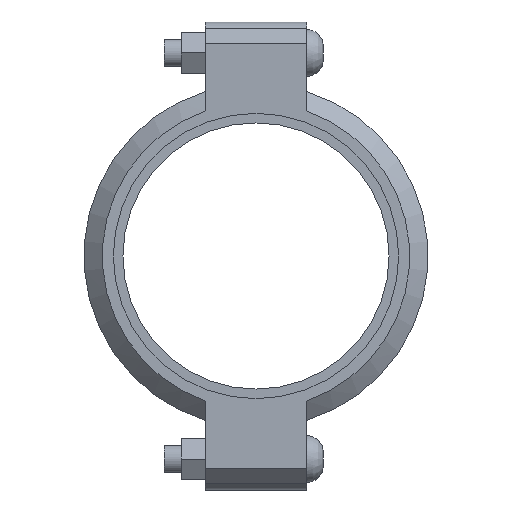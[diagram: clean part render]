
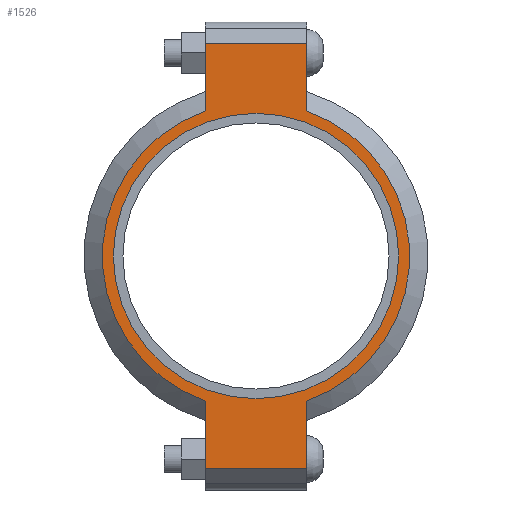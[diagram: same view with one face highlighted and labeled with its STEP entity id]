
A CAD part, left-side view. The second image highlights one B-rep face of the part: STEP entity #1526.
In plain terms, the highlighted planar face has unit normal (-1, 0, 0) as drawn and (0, 0, 1) by its records, which use the part's own axes.
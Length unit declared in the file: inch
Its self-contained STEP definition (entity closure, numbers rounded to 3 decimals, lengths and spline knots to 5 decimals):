
#150=LINE('',#2672,#243);
#158=LINE('',#2708,#251);
#165=LINE('',#2729,#258);
#174=LINE('',#2761,#267);
#175=LINE('',#2765,#268);
#176=LINE('',#2767,#269);
#243=VECTOR('',#2184,0.3937);
#251=VECTOR('',#2200,0.3937);
#258=VECTOR('',#2219,0.3937);
#267=VECTOR('',#2244,0.3937);
#268=VECTOR('',#2249,0.3937);
#269=VECTOR('',#2250,0.3937);
#325=FACE_BOUND('',#503,.T.);
#397=FACE_OUTER_BOUND('',#502,.T.);
#502=EDGE_LOOP('',(#1267,#1268,#1269,#1270,#1271,#1272,#1273,#1274));
#503=EDGE_LOOP('',(#1275));
#575=CIRCLE('',#1754,3.25);
#601=CIRCLE('',#1813,3.5);
#602=CIRCLE('',#1814,3.5);
#667=VERTEX_POINT('',#2488);
#710=VERTEX_POINT('',#2669);
#711=VERTEX_POINT('',#2671);
#722=VERTEX_POINT('',#2703);
#723=VERTEX_POINT('',#2707);
#730=VERTEX_POINT('',#2726);
#731=VERTEX_POINT('',#2728);
#741=VERTEX_POINT('',#2764);
#742=VERTEX_POINT('',#2766);
#823=EDGE_CURVE('',#667,#667,#575,.T.);
#884=EDGE_CURVE('',#711,#710,#150,.T.);
#898=EDGE_CURVE('',#723,#722,#158,.T.);
#908=EDGE_CURVE('',#731,#730,#165,.T.);
#923=EDGE_CURVE('',#723,#710,#174,.T.);
#924=EDGE_CURVE('',#722,#731,#601,.T.);
#925=EDGE_CURVE('',#741,#730,#175,.T.);
#926=EDGE_CURVE('',#741,#742,#176,.T.);
#927=EDGE_CURVE('',#742,#711,#602,.T.);
#1267=ORIENTED_EDGE('',*,*,#923,.F.);
#1268=ORIENTED_EDGE('',*,*,#898,.T.);
#1269=ORIENTED_EDGE('',*,*,#924,.T.);
#1270=ORIENTED_EDGE('',*,*,#908,.T.);
#1271=ORIENTED_EDGE('',*,*,#925,.F.);
#1272=ORIENTED_EDGE('',*,*,#926,.T.);
#1273=ORIENTED_EDGE('',*,*,#927,.T.);
#1274=ORIENTED_EDGE('',*,*,#884,.T.);
#1275=ORIENTED_EDGE('',*,*,#823,.T.);
#1368=PLANE('',#1812);
#1526=ADVANCED_FACE('',(#397,#325),#1368,.T.);
#1754=AXIS2_PLACEMENT_3D('',#2490,#2060,#2061);
#1812=AXIS2_PLACEMENT_3D('',#2762,#2245,#2246);
#1813=AXIS2_PLACEMENT_3D('',#2763,#2247,#2248);
#1814=AXIS2_PLACEMENT_3D('',#2768,#2251,#2252);
#2060=DIRECTION('center_axis',(0.,0.,-1.));
#2061=DIRECTION('ref_axis',(1.,0.,0.));
#2184=DIRECTION('',(1.,0.,0.));
#2200=DIRECTION('',(-1.,0.,0.));
#2219=DIRECTION('',(-1.,0.,0.));
#2244=DIRECTION('',(0.,-1.,0.));
#2245=DIRECTION('center_axis',(0.,0.,1.));
#2246=DIRECTION('ref_axis',(-1.,0.,0.));
#2247=DIRECTION('center_axis',(0.,0.,1.));
#2248=DIRECTION('ref_axis',(1.,0.,0.));
#2249=DIRECTION('',(0.,1.,0.));
#2250=DIRECTION('',(1.,0.,0.));
#2251=DIRECTION('center_axis',(0.,0.,1.));
#2252=DIRECTION('ref_axis',(1.,0.,0.));
#2488=CARTESIAN_POINT('',(-3.25,0.,1.04));
#2490=CARTESIAN_POINT('Origin',(0.,0.,1.04));
#2669=CARTESIAN_POINT('',(4.83,-1.156,1.04));
#2671=CARTESIAN_POINT('',(3.30358,-1.156,1.04));
#2672=CARTESIAN_POINT('',(5.33,-1.156,1.04));
#2703=CARTESIAN_POINT('',(3.30358,1.156,1.04));
#2707=CARTESIAN_POINT('',(4.83,1.156,1.04));
#2708=CARTESIAN_POINT('',(-5.33,1.156,1.04));
#2726=CARTESIAN_POINT('',(-4.83,1.156,1.04));
#2728=CARTESIAN_POINT('',(-3.30358,1.156,1.04));
#2729=CARTESIAN_POINT('',(-5.33,1.156,1.04));
#2761=CARTESIAN_POINT('',(4.83,-0.578,1.04));
#2762=CARTESIAN_POINT('Origin',(0.,0.,
1.04));
#2763=CARTESIAN_POINT('Origin',(0.,0.,1.04));
#2764=CARTESIAN_POINT('',(-4.83,-1.156,1.04));
#2765=CARTESIAN_POINT('',(-4.83,0.578,1.04));
#2766=CARTESIAN_POINT('',(-3.30358,-1.156,1.04));
#2767=CARTESIAN_POINT('',(5.33,-1.156,1.04));
#2768=CARTESIAN_POINT('Origin',(0.,0.,1.04));
